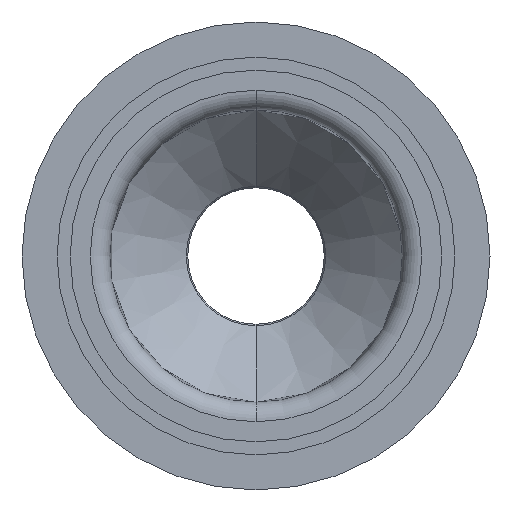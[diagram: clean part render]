
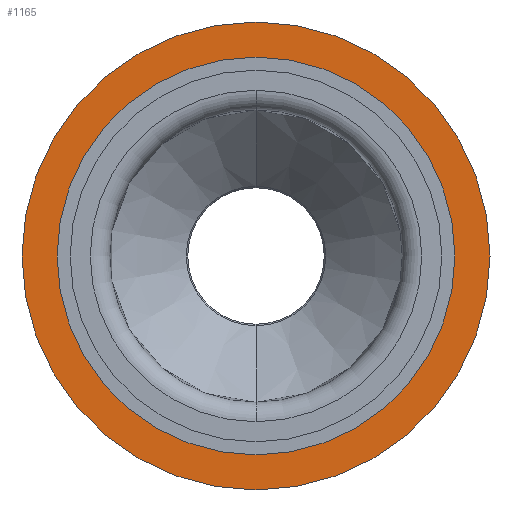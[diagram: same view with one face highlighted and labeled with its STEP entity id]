
A CAD part, front view. The second image highlights one B-rep face of the part: STEP entity #1165.
In plain terms, the highlighted planar face has unit normal (0, -1, 0).
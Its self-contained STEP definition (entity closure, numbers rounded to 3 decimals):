
#32 = VERTEX_POINT ( 'NONE', #3392 ) ;
#120 = EDGE_CURVE ( 'NONE', #32, #4812, #440, .T. ) ;
#166 = DIRECTION ( 'NONE',  ( 0., -1., 0. ) ) ;
#393 = DIRECTION ( 'NONE',  ( 0., -1., 0. ) ) ;
#440 = CIRCLE ( 'NONE', #5087, 12. ) ;
#641 = CARTESIAN_POINT ( 'NONE',  ( -369.933, -8708.459, 0. ) ) ;
#733 = FACE_BOUND ( 'NONE', #5801, .T. ) ;
#824 = CIRCLE ( 'NONE', #1970, 3.5 ) ;
#1032 = DIRECTION ( 'NONE',  ( 0., -1., 0. ) ) ;
#1135 = ORIENTED_EDGE ( 'NONE', *, *, #3468, .F. ) ;
#1152 = DIRECTION ( 'NONE',  ( 0., 0., -1. ) ) ;
#1165 = ADVANCED_FACE ( 'NONE', ( #2954, #733 ), #5129, .T. ) ;
#1243 = CARTESIAN_POINT ( 'NONE',  ( -369.933, -8708.459, 0. ) ) ;
#1460 = DIRECTION ( 'NONE',  ( 0., 0., -1. ) ) ;
#1699 = AXIS2_PLACEMENT_3D ( 'NONE', #5992, #393, #1460 ) ;
#1970 = AXIS2_PLACEMENT_3D ( 'NONE', #1243, #166, #1152 ) ;
#2032 = DIRECTION ( 'NONE',  ( 0., 0., -1. ) ) ;
#2075 = CARTESIAN_POINT ( 'NONE',  ( -369.933, -8708.459, 0. ) ) ;
#2253 = CARTESIAN_POINT ( 'NONE',  ( -369.933, -8708.459, -12. ) ) ;
#2359 = CIRCLE ( 'NONE', #1699, 3.5 ) ;
#2504 = DIRECTION ( 'NONE',  ( 0., -1., 0. ) ) ;
#2563 = CARTESIAN_POINT ( 'NONE',  ( 0., -8708.459, 0. ) ) ;
#2954 = FACE_OUTER_BOUND ( 'NONE', #3762, .T. ) ;
#3322 = AXIS2_PLACEMENT_3D ( 'NONE', #2075, #2504, #5049 ) ;
#3392 = CARTESIAN_POINT ( 'NONE',  ( -369.933, -8708.459, 12. ) ) ;
#3468 = EDGE_CURVE ( 'NONE', #5110, #4202, #2359, .T. ) ;
#3526 = CIRCLE ( 'NONE', #3322, 12. ) ;
#3762 = EDGE_LOOP ( 'NONE', ( #6373, #5590 ) ) ;
#4187 = ORIENTED_EDGE ( 'NONE', *, *, #5787, .F. ) ;
#4202 = VERTEX_POINT ( 'NONE', #6111 ) ;
#4556 = EDGE_CURVE ( 'NONE', #4812, #32, #3526, .T. ) ;
#4653 = DIRECTION ( 'NONE',  ( 0., 0., -1. ) ) ;
#4812 = VERTEX_POINT ( 'NONE', #2253 ) ;
#5047 = DIRECTION ( 'NONE',  ( 0., -1., 0. ) ) ;
#5049 = DIRECTION ( 'NONE',  ( 0., 0., -1. ) ) ;
#5087 = AXIS2_PLACEMENT_3D ( 'NONE', #641, #5047, #4653 ) ;
#5110 = VERTEX_POINT ( 'NONE', #5411 ) ;
#5129 = PLANE ( 'NONE',  #5272 ) ;
#5272 = AXIS2_PLACEMENT_3D ( 'NONE', #2563, #1032, #2032 ) ;
#5411 = CARTESIAN_POINT ( 'NONE',  ( -369.933, -8708.459, -3.5 ) ) ;
#5590 = ORIENTED_EDGE ( 'NONE', *, *, #120, .T. ) ;
#5787 = EDGE_CURVE ( 'NONE', #4202, #5110, #824, .T. ) ;
#5801 = EDGE_LOOP ( 'NONE', ( #1135, #4187 ) ) ;
#5992 = CARTESIAN_POINT ( 'NONE',  ( -369.933, -8708.459, 0. ) ) ;
#6111 = CARTESIAN_POINT ( 'NONE',  ( -369.933, -8708.459, 3.5 ) ) ;
#6373 = ORIENTED_EDGE ( 'NONE', *, *, #4556, .T. ) ;
